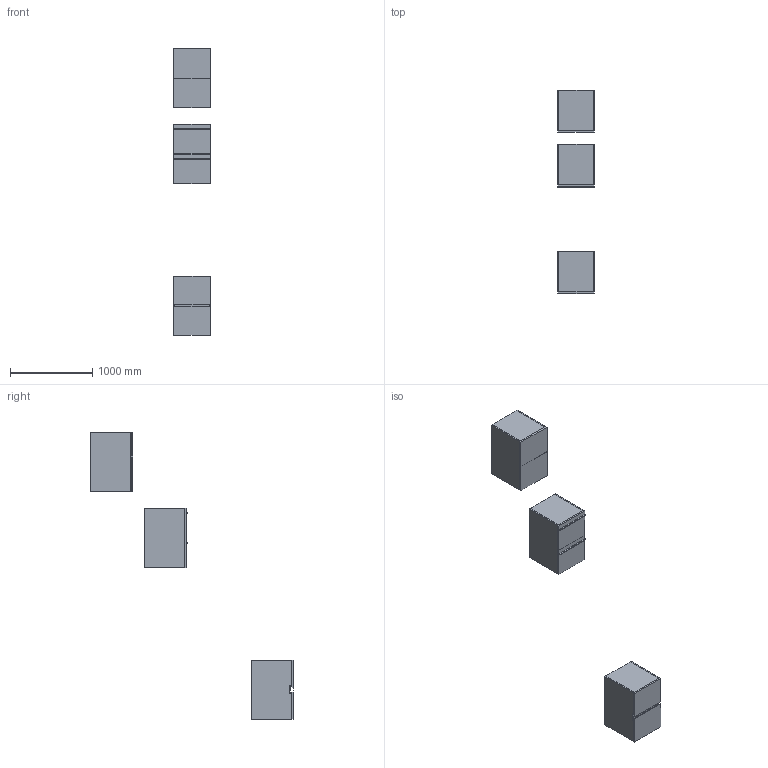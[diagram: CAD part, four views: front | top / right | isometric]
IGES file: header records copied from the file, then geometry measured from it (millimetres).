
Start section: Data from Parasolid IGES Translator 19.0.9, Copyright(c) 2006 Siemens PL M Software. All Rights Reserved.
Global section: file name: noorth-SI-H 72 D 51 W 45_8660.igs; native system: By Siemens PLM Incorporated; preprocessor: XPlus GENERIC/IGES 19.0.9; author: Noname; organization: Noname; date: 20200601.122014; units: metre
Bounding box: 450 x 2458 x 3480.01 mm (x, y, z)
Volume: 73872018.6 mm3; surface area: 11035310.3 mm2
Topology: 24 solids, 24 shells, 248 faces, 544 edges, 324 vertices
Faces by surface type: plane 164, extrusion 36, bspline 32, cylinder 16
